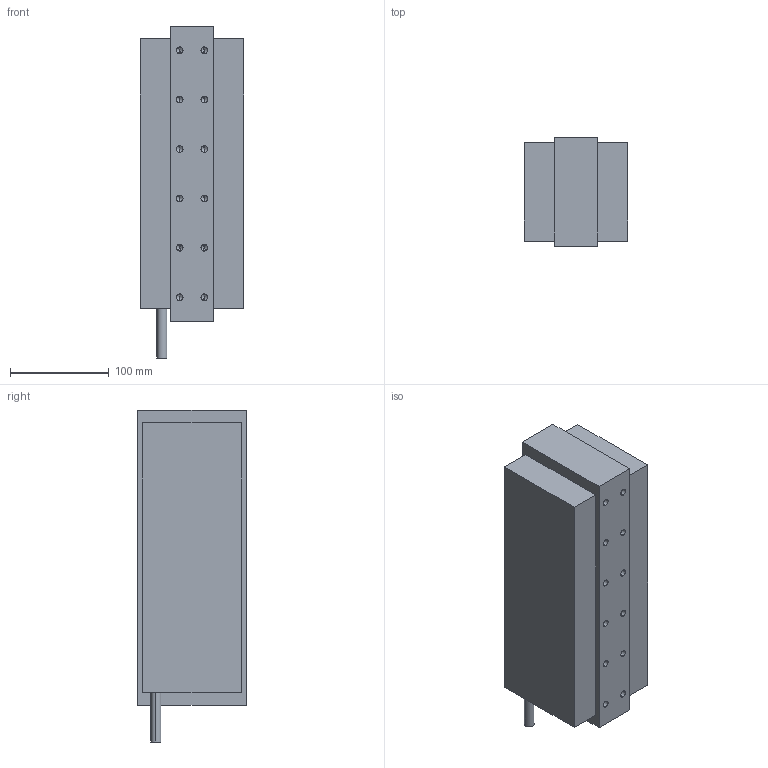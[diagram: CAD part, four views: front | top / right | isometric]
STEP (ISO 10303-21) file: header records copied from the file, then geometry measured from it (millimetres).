
FILE_DESCRIPTION (( 'STEP AP203' ), '1' );
FILE_NAME ('LMT37.STEP', '2007-08-01T00:52:07', ( 'MH0078' ), ( 'Hiwin MikroSystem Corp.' ), 'SwSTEP 2.0', 'SolidWorks 2007', '' );
FILE_SCHEMA (( 'CONFIG_CONTROL_DESIGN' ));
Length unit declared in the file: millimetre
Products named in the file (1): LMT37
Bounding box: 105 x 110 x 336 mm (x, y, z)
Volume: 3100341.9 mm3; surface area: 157762.2 mm2
Topology: 1 solids, 1 shells, 129 faces, 314 edges, 166 vertices
Faces by surface type: cone 56, cylinder 54, plane 19
Entity records: 3461 total; most frequent: DIRECTION 638, CARTESIAN_POINT 558, ORIENTED_EDGE 524, EDGE_CURVE 262, AXIS2_PLACEMENT_3D 246, VERTEX_POINT 166, EDGE_LOOP 160, VECTOR 146
